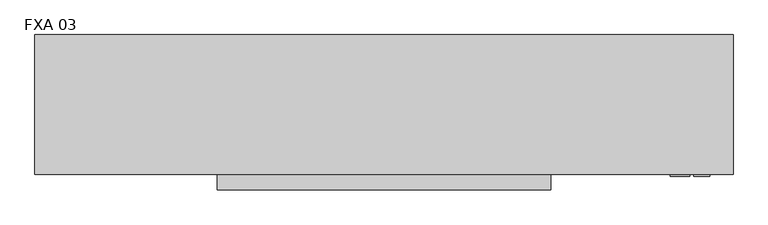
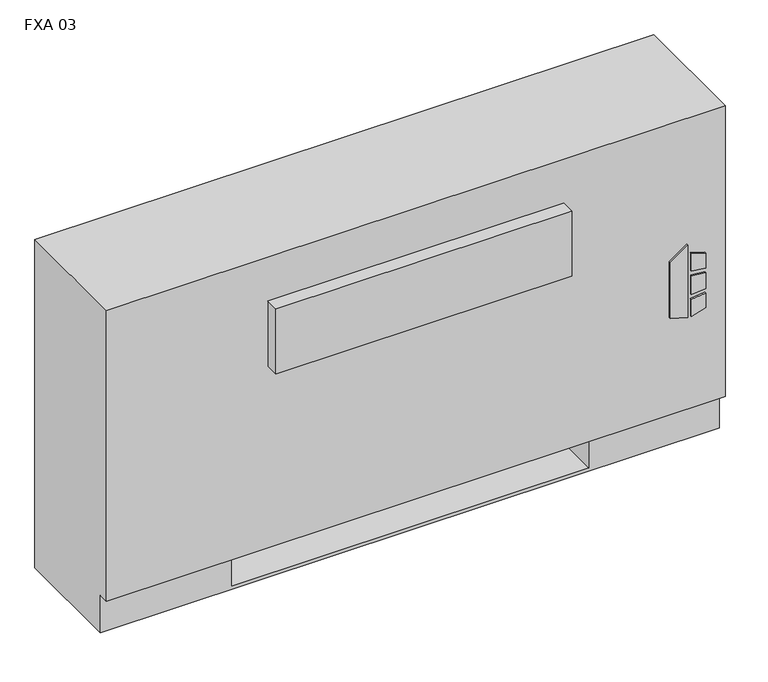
"""IFC4 building model written with IfcOpenShell, lengths in millimetres: proxy geometry, Vertical_Fan_Coil_Unit_-_FXA_-_IEC_-_2-Pipe_FS-FR_RH_2022 : FXA 03."""

from ifc_helpers import new_model, si_unit, point, frame, frame_2d, origin, place, context, project, spatial, polyline, circle_curve, trimmed, segment, composite_curve, outline, extrude, source, transform, mapped, element, save
from ifc_brep_helpers import plane_surface, revolved_surface, advanced_brep


def fxa_03_a5fb1bab(model_context):
    return source(origin(), model_context, "Body", "SolidModel", [
        extrude(outline(polyline([(263.9480703, 620.7868862), (254.0, 652.9602728), (396.1709244, 652.9602728), (373.1489183, 620.7868862), (263.9480703, 620.7868862)])), frame((0.0, 12.7, 0.0), z_axis=(0.0, 1.0, 0.0), x_axis=(0.0, 0.0, 1.0)), (0.0, 0.0, 1.0), 3.175),
        extrude(outline(polyline([(342.9473557, 659.7186058), (339.7449632, 685.8), (368.9738042, 685.8), (377.0382193, 659.7186058), (342.9473557, 659.7186058)])), frame((0.0, 12.7, 0.0), z_axis=(0.0, 1.0, 0.0), x_axis=(0.0, 0.0, 1.0)), (0.0, 0.0, 1.0), 3.175),
        extrude(outline(polyline([(291.0838288, 685.8), (287.4183279, 659.7186058), (254.0, 659.7186058), (262.6342372, 685.8), (291.0838288, 685.8)])), frame((0.0, 12.7, 0.0), z_axis=(0.0, 1.0, 0.0), x_axis=(0.0, 0.0, 1.0)), (0.0, 0.0, 1.0), 3.175),
        extrude(outline(polyline([(330.3989903, 685.8), (332.6808166, 659.7186058), (296.7432681, 659.7186058), (299.4845331, 685.8), (330.3989903, 685.8)])), frame((0.0, 12.7, 0.0), z_axis=(0.0, 1.0, 0.0), x_axis=(0.0, 0.0, 1.0)), (0.0, 0.0, 1.0), 3.175),
        extrude(outline(polyline([(-298.45, 81.534), (-298.45, 223.266), (-177.8, 223.266), (-177.8, 81.534), (-298.45, 81.534)])), frame((0.0, 0.0, 327.025), z_axis=(0.0, 0.0, 1.0), x_axis=(1.0, 0.0, 0.0)), (0.0, 0.0, 1.0), 260.35),
        extrude(outline(composite_curve([segment(trimmed(circle_curve(frame_2d((546.1, 130.175)), 9.525), [point((536.575, 130.175))], [point((555.625, 130.175))], False, "CARTESIAN"), True, "CONTINUOUS"), segment(trimmed(circle_curve(frame_2d((546.1, 130.175)), 9.525), [point((555.625, 130.175))], [point((536.575, 130.175))], False, "CARTESIAN"), True, "CONTINUOUS")], self_intersect=False)), frame((0.0, 0.0, 101.6), z_axis=(0.0, 0.0, 1.0), x_axis=(1.0, 0.0, 0.0)), (0.0, 0.0, 1.0), 25.4),
        extrude(outline(polyline([(647.7, 196.85), (647.7, 63.5), (482.6, 63.5), (482.6, 196.85), (647.7, 196.85)])), frame((0.0, 0.0, 127.0), z_axis=(0.0, 0.0, 1.0), x_axis=(1.0, 0.0, 0.0)), (0.0, 0.0, 1.0), 50.8),
        extrude(outline(polyline([(425.45, -9.525), (-120.65, -9.525), (-120.65, 15.875), (425.45, 15.875), (425.45, -9.525)])), frame((0.0, 0.0, 428.625), z_axis=(0.0, 0.0, 1.0), x_axis=(1.0, 0.0, 0.0)), (0.0, 0.0, 1.0), 127.0),
        extrude(outline(composite_curve([segment(trimmed(circle_curve(frame_2d((93.1926, 485.5972)), 7.9375), [point((93.1926, 493.5347))], [point((93.1926, 477.6597))], False, "CARTESIAN"), True, "CONTINUOUS"), segment(trimmed(circle_curve(frame_2d((93.1926, 485.5972)), 7.9375), [point((93.1926, 477.6597))], [point((93.1926, 493.5347))], False, "CARTESIAN"), True, "CONTINUOUS")], self_intersect=False)), frame((482.6, 0.0, 0.0), z_axis=(1.0, 0.0, 0.0), x_axis=(0.0, 1.0, 0.0)), (0.0, 0.0, 1.0), 50.8),
        extrude(outline(composite_curve([segment(trimmed(circle_curve(frame_2d((141.3002, 458.9526)), 7.9375), [point((141.3002, 466.8901))], [point((141.3002, 451.0151))], False, "CARTESIAN"), True, "CONTINUOUS"), segment(trimmed(circle_curve(frame_2d((141.3002, 458.9526)), 7.9375), [point((141.3002, 451.0151))], [point((141.3002, 466.8901))], False, "CARTESIAN"), True, "CONTINUOUS")], self_intersect=False)), frame((482.6, 0.0, 0.0), z_axis=(1.0, 0.0, 0.0), x_axis=(0.0, 1.0, 0.0)), (0.0, 0.0, 1.0), 50.8),
        advanced_brep(
        [(723.9, 244.475, 641.35), (-419.1, 244.475, 641.35), (-419.1, 15.875, 641.35), (723.9, 15.875, 641.35), (-419.1, 244.475, 0.0), (723.9, 244.475, 0.0), (723.9, 34.925, 0.0), (-419.1, 34.925, 0.0), (482.6, 244.475, 73.025), (711.2, 244.475, 73.025), (711.2, 244.475, 628.65), (482.6, 244.475, 628.65), (482.6, 244.475, 414.8650565), (511.175, 244.475, 414.8650565), (511.175, 244.475, 385.2349435), (482.6, 244.475, 385.2349435), (482.6, 244.475, 287.3375), (511.175, 244.475, 287.3375), (511.175, 244.475, 258.7625), (482.6, 244.475, 258.7625), (482.6, 244.475, 141.2875), (511.175, 244.475, 141.2875), (511.175, 244.475, 112.7125), (482.6, 244.475, 112.7125), (-177.8, 244.475, 628.65), (-406.4, 244.475, 628.65), (-406.4, 244.475, 73.025), (-177.8, 244.475, 73.025), (-177.8, 244.475, 112.7125), (-206.375, 244.475, 112.7125), (-206.375, 244.475, 141.2875), (-177.8, 244.475, 141.2875), (-177.8, 244.475, 258.7625), (-206.375, 244.475, 258.7625), (-206.375, 244.475, 287.3375), (-177.8, 244.475, 287.3375), (-177.8, 244.475, 385.2349435), (-206.375, 244.475, 385.2349435), (-206.375, 244.475, 414.8650565), (-177.8, 244.475, 414.8650565), (500.8626, 244.475, 127.0), (489.7374, 244.475, 127.0), (500.8626, 244.475, 400.05), (489.7374, 244.475, 400.05), (500.8626, 244.475, 273.05), (489.7374, 244.475, 273.05), (-184.9374, 244.475, 127.0), (-196.0626, 244.475, 127.0), (-184.9374, 244.475, 273.05), (-196.0626, 244.475, 273.05), (-184.9374, 244.475, 400.05), (-196.0626, 244.475, 400.05), (-419.1, 34.925, 73.025), (-419.1, 15.875, 73.025), (723.9, 15.875, 73.025), (723.9, 34.925, 73.025), (-177.8, 34.925, 73.025), (-177.8, 219.075, 73.025), (482.6, 219.075, 73.025), (482.6, 34.925, 73.025), (482.6, 34.925, 6.35), (-177.8, 34.925, 6.35), (482.6, 41.275, 628.65), (711.2, 41.275, 628.65), (711.2, 41.275, 73.025), (482.6, 41.275, 73.025), (-177.8, 41.275, 628.65), (-177.8, 41.275, 73.025), (-406.4, 41.275, 73.025), (-406.4, 41.275, 628.65), (482.6, 219.075, 73.025), (482.6, 238.125, 112.7125), (482.6, 238.125, 141.2875), (482.6, 238.125, 258.7625), (482.6, 238.125, 287.3375), (482.6, 238.125, 385.2349435), (482.6, 238.125, 414.8650565), (-177.8, 219.075, 73.025), (-177.8, 238.125, 414.8650565), (-177.8, 238.125, 385.2349435), (-177.8, 238.125, 287.3375), (-177.8, 238.125, 258.7625), (-177.8, 238.125, 141.2875), (-177.8, 238.125, 112.7125), (-177.8, 219.075, 6.35), (482.6, 219.075, 6.35), (511.175, 238.125, 112.7125), (511.175, 238.125, 141.2875), (489.7374, 238.125, 127.0), (500.8626, 238.125, 127.0), (511.175, 238.125, 258.7625), (511.175, 238.125, 287.3375), (489.7374, 238.125, 273.05), (500.8626, 238.125, 273.05), (511.175, 238.125, 385.2349435), (511.175, 238.125, 414.8650565), (489.7374, 238.125, 400.05), (500.8626, 238.125, 400.05), (-206.375, 238.125, 141.2875), (-206.375, 238.125, 112.7125), (-196.0626, 238.125, 127.0), (-184.9374, 238.125, 127.0), (-206.375, 238.125, 287.3375), (-206.375, 238.125, 258.7625), (-196.0626, 238.125, 273.05), (-184.9374, 238.125, 273.05), (-206.375, 238.125, 414.8650565), (-206.375, 238.125, 385.2349435), (-196.0626, 238.125, 400.05), (-184.9374, 238.125, 400.05)],
        [
            (0, 1),
            (1, 2),
            (2, 3),
            (3, 0),
            (4, 5),
            (5, 6),
            (6, 7),
            (7, 4),
            (0, 5),
            (4, 1),
            (8, 9),
            (9, 10),
            (10, 11),
            (11, 12),
            (12, 13),
            (13, 14),
            (14, 15),
            (15, 16),
            (16, 17),
            (17, 18),
            (18, 19),
            (19, 20),
            (20, 21),
            (21, 22),
            (22, 23),
            (23, 8),
            (24, 25),
            (25, 26),
            (26, 27),
            (27, 28),
            (28, 29),
            (29, 30),
            (30, 31),
            (31, 32),
            (32, 33),
            (33, 34),
            (34, 35),
            (35, 36),
            (36, 37),
            (37, 38),
            (38, 39),
            (39, 24),
            (40, 41, circle_curve(frame((495.3, 244.475, 127.0), z_axis=(0.0, -1.0, 0.0), x_axis=(-1.0, 0.0, 0.0)), 5.5626)),
            (41, 40, circle_curve(frame((495.3, 244.475, 127.0), z_axis=(0.0, -1.0, 0.0), x_axis=(-1.0, 0.0, 0.0)), 5.5626)),
            (42, 43, circle_curve(frame((495.3, 244.475, 400.05), z_axis=(0.0, -1.0, 0.0), x_axis=(-1.0, 0.0, 0.0)), 5.5626)),
            (43, 42, circle_curve(frame((495.3, 244.475, 400.05), z_axis=(0.0, -1.0, 0.0), x_axis=(-1.0, 0.0, 0.0)), 5.5626)),
            (44, 45, circle_curve(frame((495.3, 244.475, 273.05), z_axis=(0.0, -1.0, 0.0), x_axis=(-1.0, 0.0, 0.0)), 5.5626)),
            (45, 44, circle_curve(frame((495.3, 244.475, 273.05), z_axis=(0.0, -1.0, 0.0), x_axis=(-1.0, 0.0, 0.0)), 5.5626)),
            (46, 47, circle_curve(frame((-190.5, 244.475, 127.0), z_axis=(0.0, -1.0, 0.0), x_axis=(-1.0, 0.0, 0.0)), 5.5626)),
            (47, 46, circle_curve(frame((-190.5, 244.475, 127.0), z_axis=(0.0, -1.0, 0.0), x_axis=(-1.0, 0.0, 0.0)), 5.5626)),
            (48, 49, circle_curve(frame((-190.5, 244.475, 273.05), z_axis=(0.0, -1.0, 0.0), x_axis=(-1.0, 0.0, 0.0)), 5.5626)),
            (49, 48, circle_curve(frame((-190.5, 244.475, 273.05), z_axis=(0.0, -1.0, 0.0), x_axis=(-1.0, 0.0, 0.0)), 5.5626)),
            (50, 51, circle_curve(frame((-190.5, 244.475, 400.05), z_axis=(0.0, -1.0, 0.0), x_axis=(-1.0, 0.0, 0.0)), 5.5626)),
            (51, 50, circle_curve(frame((-190.5, 244.475, 400.05), z_axis=(0.0, -1.0, 0.0), x_axis=(-1.0, 0.0, 0.0)), 5.5626)),
            (7, 52),
            (52, 53),
            (53, 2),
            (53, 54),
            (54, 3),
            (54, 55),
            (55, 6),
            (52, 56),
            (56, 57),
            (57, 58),
            (58, 59),
            (59, 55),
            (59, 60),
            (60, 61),
            (61, 56),
            (62, 63),
            (63, 64),
            (64, 65),
            (65, 62),
            (66, 67),
            (67, 68),
            (68, 69),
            (69, 66),
            (65, 70),
            (70, 8),
            (23, 71),
            (71, 72),
            (72, 20),
            (19, 73),
            (73, 74),
            (74, 16),
            (15, 75),
            (75, 76),
            (76, 12),
            (11, 62),
            (64, 9),
            (63, 10),
            (69, 25),
            (24, 66),
            (68, 26),
            (67, 77),
            (77, 27),
            (39, 78),
            (78, 79),
            (79, 36),
            (35, 80),
            (80, 81),
            (81, 32),
            (31, 82),
            (82, 83),
            (83, 28),
            (57, 84),
            (84, 85),
            (85, 58),
            (85, 60),
            (84, 61),
            (71, 86),
            (86, 87),
            (87, 72),
            (88, 89, circle_curve(frame((495.3, 238.125, 127.0), z_axis=(0.0, 1.0, 0.0), x_axis=(-1.0, 0.0, 0.0)), 5.5626)),
            (89, 88, circle_curve(frame((495.3, 238.125, 127.0), z_axis=(0.0, 1.0, 0.0), x_axis=(-1.0, 0.0, 0.0)), 5.5626)),
            (73, 90),
            (90, 91),
            (91, 74),
            (92, 93, circle_curve(frame((495.3, 238.125, 273.05), z_axis=(0.0, 1.0, 0.0), x_axis=(-1.0, 0.0, 0.0)), 5.5626)),
            (93, 92, circle_curve(frame((495.3, 238.125, 273.05), z_axis=(0.0, 1.0, 0.0), x_axis=(-1.0, 0.0, 0.0)), 5.5626)),
            (75, 94),
            (94, 95),
            (95, 76),
            (96, 97, circle_curve(frame((495.3, 238.125, 400.05), z_axis=(0.0, 1.0, 0.0), x_axis=(-1.0, 0.0, 0.0)), 5.5626)),
            (97, 96, circle_curve(frame((495.3, 238.125, 400.05), z_axis=(0.0, 1.0, 0.0), x_axis=(-1.0, 0.0, 0.0)), 5.5626)),
            (98, 99),
            (99, 83),
            (82, 98),
            (100, 101, circle_curve(frame((-190.5, 238.125, 127.0), z_axis=(0.0, 1.0, 0.0), x_axis=(-1.0, 0.0, 0.0)), 5.5626)),
            (101, 100, circle_curve(frame((-190.5, 238.125, 127.0), z_axis=(0.0, 1.0, 0.0), x_axis=(-1.0, 0.0, 0.0)), 5.5626)),
            (102, 103),
            (103, 81),
            (80, 102),
            (104, 105, circle_curve(frame((-190.5, 238.125, 273.05), z_axis=(0.0, 1.0, 0.0), x_axis=(-1.0, 0.0, 0.0)), 5.5626)),
            (105, 104, circle_curve(frame((-190.5, 238.125, 273.05), z_axis=(0.0, 1.0, 0.0), x_axis=(-1.0, 0.0, 0.0)), 5.5626)),
            (106, 107),
            (107, 79),
            (78, 106),
            (108, 109, circle_curve(frame((-190.5, 238.125, 400.05), z_axis=(0.0, 1.0, 0.0), x_axis=(-1.0, 0.0, 0.0)), 5.5626)),
            (109, 108, circle_curve(frame((-190.5, 238.125, 400.05), z_axis=(0.0, 1.0, 0.0), x_axis=(-1.0, 0.0, 0.0)), 5.5626)),
            (87, 21),
            (86, 22),
            (91, 17),
            (90, 18),
            (95, 13),
            (94, 14),
            (30, 98),
            (99, 29),
            (34, 102),
            (103, 33),
            (38, 106),
            (107, 37),
            (88, 41),
            (40, 89),
            (96, 43),
            (42, 97),
            (92, 45),
            (44, 93),
            (100, 47),
            (46, 101),
            (104, 49),
            (48, 105),
            (108, 51),
            (50, 109),
        ],
        [
            plane_surface(frame((-419.1, 244.475, 641.35), z_axis=(0.0, 0.0, 1.0), x_axis=(-1.0, 0.0, 0.0))),
            plane_surface(frame((-419.1, 244.475, 0.0), z_axis=(0.0, 0.0, -1.0), x_axis=(1.0, 0.0, 0.0))),
            plane_surface(frame((723.9, 244.475, 641.35), z_axis=(0.0, 1.0, 0.0), x_axis=(0.0, 0.0, -1.0))),
            plane_surface(frame((-419.1, 244.475, 641.35), z_axis=(-1.0, 0.0, 0.0), x_axis=(0.0, 0.0, -1.0))),
            plane_surface(frame((-419.1, 15.875, 641.35), z_axis=(0.0, -1.0, 0.0), x_axis=(0.0, 0.0, -1.0))),
            plane_surface(frame((723.9, 15.875, 641.35), z_axis=(1.0, 0.0, 0.0), x_axis=(0.0, 0.0, -1.0))),
            plane_surface(frame((-419.1, 15.875, 73.025), z_axis=(0.0, 0.0, -1.0), x_axis=(1.0, 0.0, 0.0))),
            plane_surface(frame((-419.1, 34.925, 73.025), z_axis=(0.0, -1.0, 0.0), x_axis=(1.0, 0.0, 0.0))),
            plane_surface(frame((482.6, 41.275, 628.65), z_axis=(0.0, 1.0, 0.0), x_axis=(0.0, 0.0, -1.0))),
            plane_surface(frame((482.6, 41.275, 628.65), z_axis=(1.0, 0.0, 0.0), x_axis=(0.0, 1.0, 0.0))),
            plane_surface(frame((482.6, 41.275, 73.025), z_axis=(0.0, 0.0, 1.0), x_axis=(0.0, 1.0, 0.0))),
            plane_surface(frame((711.2, 41.275, 73.025), z_axis=(-1.0, 0.0, 0.0), x_axis=(0.0, 1.0, 0.0))),
            plane_surface(frame((711.2, 41.275, 628.65), z_axis=(0.0, 0.0, -1.0), x_axis=(0.0, 1.0, 0.0))),
            plane_surface(frame((-177.8, 41.275, 628.65), z_axis=(0.0, 0.0, -1.0), x_axis=(0.0, 1.0, 0.0))),
            plane_surface(frame((-406.4, 41.275, 628.65), z_axis=(1.0, 0.0, 0.0), x_axis=(0.0, 1.0, 0.0))),
            plane_surface(frame((-406.4, 41.275, 73.025), z_axis=(0.0, 0.0, 1.0), x_axis=(0.0, 1.0, 0.0))),
            plane_surface(frame((-177.8, 41.275, 73.025), z_axis=(-1.0, 0.0, 0.0), x_axis=(0.0, 1.0, 0.0))),
            plane_surface(frame((482.6, 219.075, 73.025), z_axis=(0.0, -1.0, 0.0), x_axis=(0.0, 0.0, -1.0))),
            plane_surface(frame((482.6, 219.075, 73.025), z_axis=(-1.0, 0.0, 0.0), x_axis=(0.0, -1.0, 0.0))),
            plane_surface(frame((482.6, 219.075, 6.35), z_axis=(0.0, 0.0, 1.0), x_axis=(0.0, -1.0, 0.0))),
            plane_surface(frame((-177.8, 219.075, 6.35), z_axis=(1.0, 0.0, 0.0), x_axis=(0.0, -1.0, 0.0))),
            plane_surface(frame((511.175, 238.125, 141.2875), z_axis=(0.0, -1.0, 0.0), x_axis=(-1.0, 0.0, 0.0))),
            plane_surface(frame((482.6, 244.475, 141.2875), z_axis=(0.0, 0.0, 1.0), x_axis=(0.0, -1.0, 0.0))),
            plane_surface(frame((511.175, 244.475, 141.2875), z_axis=(1.0, 0.0, 0.0), x_axis=(0.0, -1.0, 0.0))),
            plane_surface(frame((511.175, 244.475, 112.7125), z_axis=(0.0, 0.0, -1.0), x_axis=(0.0, -1.0, 0.0))),
            plane_surface(frame((482.6, 244.475, 287.3375), z_axis=(0.0, 0.0, 1.0), x_axis=(0.0, -1.0, 0.0))),
            plane_surface(frame((511.175, 244.475, 287.3375), z_axis=(1.0, 0.0, 0.0), x_axis=(0.0, -1.0, 0.0))),
            plane_surface(frame((511.175, 244.475, 258.7625), z_axis=(0.0, 0.0, -1.0), x_axis=(0.0, -1.0, 0.0))),
            plane_surface(frame((482.6, 244.475, 414.8650565), z_axis=(0.0, 0.0, 1.0), x_axis=(0.0, -1.0, 0.0))),
            plane_surface(frame((511.175, 244.475, 414.8650565), z_axis=(1.0, 0.0, 0.0), x_axis=(0.0, -1.0, 0.0))),
            plane_surface(frame((511.175, 244.475, 385.2349435), z_axis=(0.0, 0.0, -1.0), x_axis=(0.0, -1.0, 0.0))),
            plane_surface(frame((-206.375, 244.475, 141.2875), z_axis=(0.0, 0.0, 1.0), x_axis=(0.0, -1.0, 0.0))),
            plane_surface(frame((-177.8, 244.475, 112.7125), z_axis=(0.0, 0.0, -1.0), x_axis=(0.0, -1.0, 0.0))),
            plane_surface(frame((-206.375, 244.475, 112.7125), z_axis=(-1.0, 0.0, 0.0), x_axis=(0.0, -1.0, 0.0))),
            plane_surface(frame((-206.375, 244.475, 287.3375), z_axis=(0.0, 0.0, 1.0), x_axis=(0.0, -1.0, 0.0))),
            plane_surface(frame((-177.8, 244.475, 258.7625), z_axis=(0.0, 0.0, -1.0), x_axis=(0.0, -1.0, 0.0))),
            plane_surface(frame((-206.375, 244.475, 258.7625), z_axis=(-1.0, 0.0, 0.0), x_axis=(0.0, -1.0, 0.0))),
            plane_surface(frame((-206.375, 244.475, 414.8650565), z_axis=(0.0, 0.0, 1.0), x_axis=(0.0, -1.0, 0.0))),
            plane_surface(frame((-177.8, 244.475, 385.2349435), z_axis=(0.0, 0.0, -1.0), x_axis=(0.0, -1.0, 0.0))),
            plane_surface(frame((-206.375, 244.475, 385.2349435), z_axis=(-1.0, 0.0, 0.0), x_axis=(0.0, -1.0, 0.0))),
            revolved_surface(polyline([(489.73740000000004, 238.125, 127.0), (489.73740000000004, 244.475, 127.0)]), (495.3, 244.475, 127.0), (0.0, -1.0, 0.0)),
            revolved_surface(polyline([(489.73740000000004, 238.125, 400.05), (489.73740000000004, 244.475, 400.05)]), (495.3, 244.475, 400.05), (0.0, -1.0, 0.0)),
            revolved_surface(polyline([(489.73740000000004, 238.125, 273.05), (489.73740000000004, 244.475, 273.05)]), (495.3, 244.475, 273.05), (0.0, -1.0, 0.0)),
            revolved_surface(polyline([(-196.0626, 238.125, 127.0), (-196.0626, 244.475, 127.0)]), (-190.5, 244.475, 127.0), (0.0, -1.0, 0.0)),
            revolved_surface(polyline([(-196.0626, 238.125, 273.05), (-196.0626, 244.475, 273.05)]), (-190.5, 244.475, 273.05), (0.0, -1.0, 0.0)),
            revolved_surface(polyline([(-196.0626, 238.125, 400.05), (-196.0626, 244.475, 400.05)]), (-190.5, 244.475, 400.05), (0.0, -1.0, 0.0)),
        ],
        [
            (0, [[1, 2, 3, 4]]),
            (1, [[5, 6, 7, 8]]),
            (2, [[-1, 9, -5, 10], [11, 12, 13, 14, 15, 16, 17, 18, 19, 20, 21, 22, 23, 24, 25, 26], [27, 28, 29, 30, 31, 32, 33, 34, 35, 36, 37, 38, 39, 40, 41, 42], [43, 44], [45, 46], [47, 48], [49, 50], [51, 52], [53, 54]]),
            (3, [[-2, -10, -8, 55, 56, 57]]),
            (4, [[-3, -57, 58, 59]]),
            (5, [[-4, -59, 60, 61, -6, -9]]),
            (6, [[-56, 62, 63, 64, 65, 66, -60, -58]]),
            (7, [[-7, -61, -66, 67, 68, 69, -62, -55]]),
            (8, [[70, 71, 72, 73]]),
            (8, [[74, 75, 76, 77]]),
            (9, [[-73, 78, 79, -26, 80, 81, 82, -22, 83, 84, 85, -18, 86, 87, 88, -14, 89]]),
            (10, [[-72, 90, -11, -79, -78]]),
            (11, [[-71, 91, -12, -90]]),
            (12, [[-70, -89, -13, -91]]),
            (13, [[-77, 92, -27, 93]]),
            (14, [[-76, 94, -28, -92]]),
            (15, [[-75, 95, 96, -29, -94]]),
            (16, [[-74, -93, -42, 97, 98, 99, -38, 100, 101, 102, -34, 103, 104, 105, -30, -96, -95]]),
            (17, [[-64, 106, 107, 108]]),
            (18, [[-108, 109, -67, -65]]),
            (19, [[-107, 110, -68, -109]]),
            (20, [[-106, -63, -69, -110]]),
            (21, [[111, 112, 113, -81], [114, 115]]),
            (21, [[116, 117, 118, -84], [119, 120]]),
            (21, [[121, 122, 123, -87], [124, 125]]),
            (21, [[126, 127, -104, 128], [129, 130]]),
            (21, [[131, 132, -101, 133], [134, 135]]),
            (21, [[136, 137, -98, 138], [139, 140]]),
            (22, [[-113, 141, -23, -82]]),
            (23, [[-112, 142, -24, -141]]),
            (24, [[-111, -80, -25, -142]]),
            (25, [[-118, 143, -19, -85]]),
            (26, [[-117, 144, -20, -143]]),
            (27, [[-116, -83, -21, -144]]),
            (28, [[-123, 145, -15, -88]]),
            (29, [[-122, 146, -16, -145]]),
            (30, [[-121, -86, -17, -146]]),
            (31, [[-128, -103, -33, 147]]),
            (32, [[-127, 148, -31, -105]]),
            (33, [[-126, -147, -32, -148]]),
            (34, [[-133, -100, -37, 149]]),
            (35, [[-132, 150, -35, -102]]),
            (36, [[-131, -149, -36, -150]]),
            (37, [[-138, -97, -41, 151]]),
            (38, [[-137, 152, -39, -99]]),
            (39, [[-136, -151, -40, -152]]),
            (40, [[153, -43, 154, -114]]),
            (40, [[-153, -115, -154, -44]]),
            (41, [[155, -45, 156, -124]]),
            (41, [[-155, -125, -156, -46]]),
            (42, [[157, -47, 158, -119]]),
            (42, [[-157, -120, -158, -48]]),
            (43, [[159, -49, 160, -129]]),
            (43, [[-159, -130, -160, -50]]),
            (44, [[161, -51, 162, -134]]),
            (44, [[-161, -135, -162, -52]]),
            (45, [[163, -53, 164, -139]]),
            (45, [[-163, -140, -164, -54]]),
        ],
    ),
    ])


if __name__ == "__main__":
    model = new_model("IFC4")
    model_context = context("Model", 3, world=origin())
    ifc_project = project(units=[si_unit("LENGTHUNIT", "METRE", prefix="MILLI")], contexts=[model_context])
    site = spatial("IfcSite", under=ifc_project)
    building = spatial("IfcBuilding", under=site)
    placement = place(None, origin())
    fxa_03_shape = fxa_03_a5fb1bab(model_context)
    element("IfcBuildingElementProxy", 1, Name="Vertical_Fan_Coil_Unit_-_FXA_-_IEC_-_2-Pipe_FS-FR_RH_2022 : FXA 03", ObjectType="Vertical_Fan_Coil_Unit_-_FXA_-_IEC_-_2-Pipe_FS-FR_RH_2022 : FXA 03", at=placement, inside=building, context=model_context, shape_type="MappedRepresentation", body=[
        mapped(fxa_03_shape, transform((0.0, 0.0, 0.0), x_axis=(1.0, 0.0, 0.0), y_axis=(0.0, 1.0, 0.0), z_axis=(0.0, 0.0, 1.0))),
    ])
    save(model, "model.ifc")
